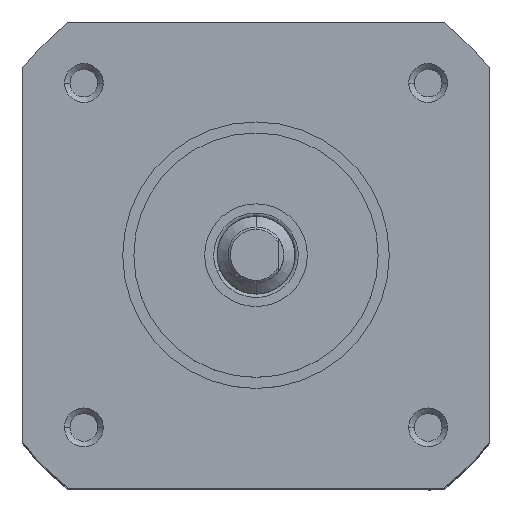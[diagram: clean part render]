
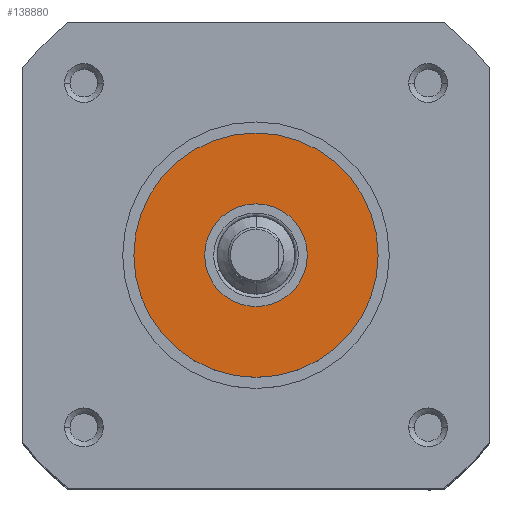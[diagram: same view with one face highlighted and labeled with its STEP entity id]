
A CAD part, top view. The second image highlights one B-rep face of the part: STEP entity #138880.
In plain terms, the highlighted planar face has unit normal (0, 0, 1).
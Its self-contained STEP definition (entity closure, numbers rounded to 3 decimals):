
#79 = ORIENTED_EDGE ( 'NONE', *, *, #45350, .F. ) ;
#6547 = DIRECTION ( 'NONE',  ( 1., 0., 0. ) ) ;
#11414 = EDGE_LOOP ( 'NONE', ( #32952, #20381 ) ) ;
#13754 = EDGE_CURVE ( 'NONE', #233926, #225392, #26433, .T. ) ;
#20034 = EDGE_CURVE ( 'NONE', #141164, #239507, #175916, .T. ) ;
#20381 = ORIENTED_EDGE ( 'NONE', *, *, #251045, .T. ) ;
#21193 = DIRECTION ( 'NONE',  ( 0., 0., 1. ) ) ;
#22461 = DIRECTION ( 'NONE',  ( 1., 0., 0. ) ) ;
#26433 = CIRCLE ( 'NONE', #61123, 11. ) ;
#32952 = ORIENTED_EDGE ( 'NONE', *, *, #13754, .T. ) ;
#41164 = EDGE_LOOP ( 'NONE', ( #79, #213865 ) ) ;
#43542 = CARTESIAN_POINT ( 'NONE',  ( -61.24, 30.472, 5.5 ) ) ;
#45350 = EDGE_CURVE ( 'NONE', #239507, #141164, #82234, .T. ) ;
#61123 = AXIS2_PLACEMENT_3D ( 'NONE', #43542, #63939, #61233 ) ;
#61233 = DIRECTION ( 'NONE',  ( 1., 0., 0. ) ) ;
#63939 = DIRECTION ( 'NONE',  ( 0., 0., 1. ) ) ;
#82234 = CIRCLE ( 'NONE', #165029, 4.625 ) ;
#103955 = PLANE ( 'NONE',  #133486 ) ;
#109795 = CARTESIAN_POINT ( 'NONE',  ( -61.24, 30.472, 5.5 ) ) ;
#117945 = CARTESIAN_POINT ( 'NONE',  ( -61.24, 30.472, 5.5 ) ) ;
#120611 = DIRECTION ( 'NONE',  ( 0., 0., 1. ) ) ;
#121696 = DIRECTION ( 'NONE',  ( 0., 0., 1. ) ) ;
#122258 = CARTESIAN_POINT ( 'NONE',  ( -65.865, 30.472, 5.5 ) ) ;
#133486 = AXIS2_PLACEMENT_3D ( 'NONE', #229224, #121696, #22461 ) ;
#138880 = ADVANCED_FACE ( 'NONE', ( #246914, #226514 ), #103955, .T. ) ;
#141164 = VERTEX_POINT ( 'NONE', #122258 ) ;
#148669 = AXIS2_PLACEMENT_3D ( 'NONE', #207487, #21193, #225252 ) ;
#159284 = CARTESIAN_POINT ( 'NONE',  ( -50.24, 30.472, 5.5 ) ) ;
#161536 = DIRECTION ( 'NONE',  ( 1., 0., 0. ) ) ;
#165029 = AXIS2_PLACEMENT_3D ( 'NONE', #117945, #120611, #161536 ) ;
#175916 = CIRCLE ( 'NONE', #193177, 4.625 ) ;
#188103 = CARTESIAN_POINT ( 'NONE',  ( -72.24, 30.472, 5.5 ) ) ;
#193177 = AXIS2_PLACEMENT_3D ( 'NONE', #109795, #255416, #6547 ) ;
#207487 = CARTESIAN_POINT ( 'NONE',  ( -61.24, 30.472, 5.5 ) ) ;
#213865 = ORIENTED_EDGE ( 'NONE', *, *, #20034, .F. ) ;
#225252 = DIRECTION ( 'NONE',  ( 1., 0., 0. ) ) ;
#225392 = VERTEX_POINT ( 'NONE', #188103 ) ;
#226514 = FACE_OUTER_BOUND ( 'NONE', #11414, .T. ) ;
#229224 = CARTESIAN_POINT ( 'NONE',  ( -61.24, 30.472, 5.5 ) ) ;
#231992 = CARTESIAN_POINT ( 'NONE',  ( -56.615, 30.472, 5.5 ) ) ;
#233926 = VERTEX_POINT ( 'NONE', #159284 ) ;
#235670 = CIRCLE ( 'NONE', #148669, 11. ) ;
#239507 = VERTEX_POINT ( 'NONE', #231992 ) ;
#246914 = FACE_BOUND ( 'NONE', #41164, .T. ) ;
#251045 = EDGE_CURVE ( 'NONE', #225392, #233926, #235670, .T. ) ;
#255416 = DIRECTION ( 'NONE',  ( 0., 0., 1. ) ) ;
